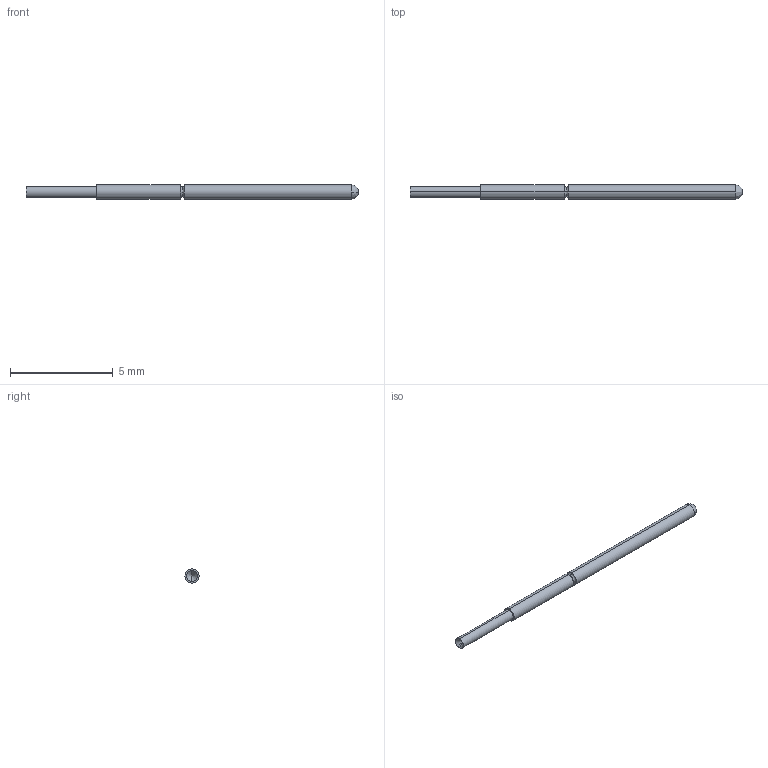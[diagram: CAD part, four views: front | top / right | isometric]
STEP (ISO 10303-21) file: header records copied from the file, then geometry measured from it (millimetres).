
FILE_DESCRIPTION (( 'STEP AP214' ), '1' );
FILE_NAME ('PA1A-021.STEP', '2021-08-24T13:45:57', ( '' ), ( '' ), 'SwSTEP 2.0', 'SolidWorks 2021', '' );
FILE_SCHEMA (( 'AUTOMOTIVE_DESIGN' ));
Length unit declared in the file: inch
Products named in the file (1): PA1A-021
Bounding box: 16.13 x 0.69 x 0.69 mm (x, y, z)
Volume: 5.4 mm3; surface area: 33.7 mm2
Topology: 1 solids, 1 shells, 16 faces, 34 edges, 19 vertices
Faces by surface type: bspline 6, cylinder 6, cone 2, plane 2
Entity records: 734 total; most frequent: CARTESIAN_POINT 170, DIRECTION 70, ORIENTED_EDGE 64, EDGE_CURVE 32, AXIS2_PLACEMENT_3D 31, CIRCLE 20, LENGTH_MEASURE_WITH_UNIT 19, DIMENSIONAL_EXPONENTS 19
